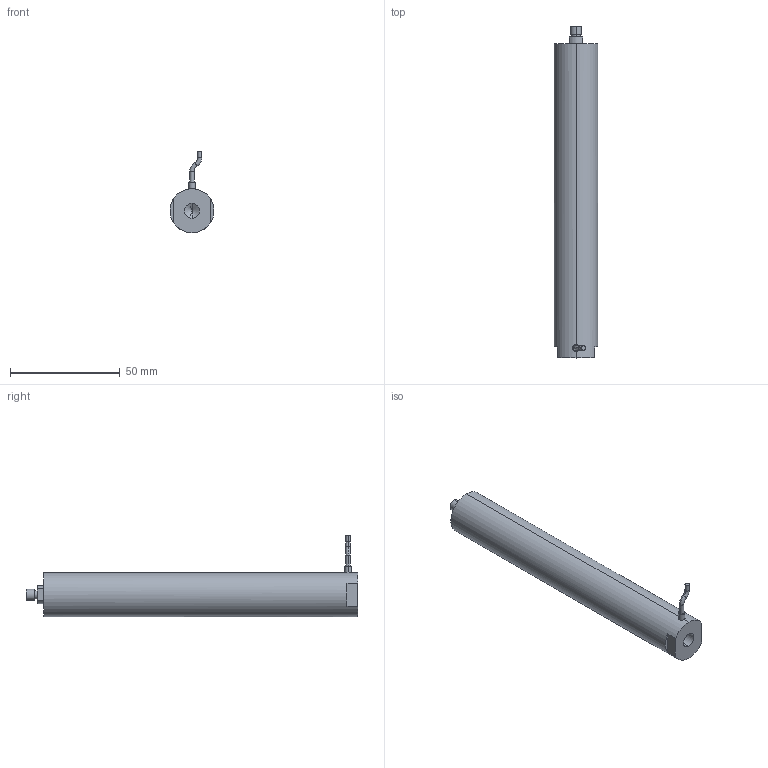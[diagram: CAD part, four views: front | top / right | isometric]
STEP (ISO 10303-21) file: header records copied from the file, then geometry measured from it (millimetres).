
FILE_DESCRIPTION (( 'STEP AP203' ), '1' );
FILE_NAME ('ﾍ篦ﾝﾎﾆﾊｽ140VS20.STEP', '2021-07-08T06:11:31', ( 'ﾎ｢ﾈ橆ﾃｻｧ' ), ( 'ﾎ｢ﾈ晥ｫﾋｾ' ), 'SwSTEP 2.0', 'SolidWorks 2016', '' );
FILE_SCHEMA (( 'CONFIG_CONTROL_DESIGN' ));
Length unit declared in the file: millimetre
Products named in the file (1): 俋蹟恇宒140VS20
Bounding box: 20 x 151 x 37.06 mm (x, y, z)
Volume: 44687.6 mm3; surface area: 10136.1 mm2
Topology: 1 solids, 1 shells, 951 faces, 2570 edges, 1709 vertices
Faces by surface type: bspline 513, plane 320, cylinder 112, torus 4, cone 2
Entity records: 45066 total; most frequent: CARTESIAN_POINT 25693, ORIENTED_EDGE 5136, EDGE_CURVE 2568, DIRECTION 2025, VERTEX_POINT 1709, B_SPLINE_CURVE_WITH_KNOTS 1705, EDGE_LOOP 1041, ADVANCED_FACE 951
